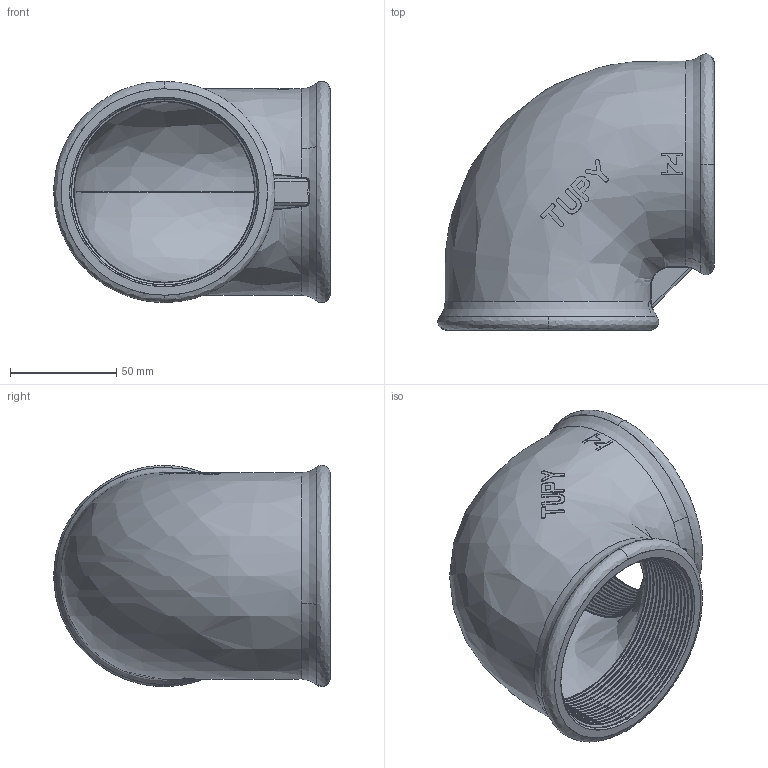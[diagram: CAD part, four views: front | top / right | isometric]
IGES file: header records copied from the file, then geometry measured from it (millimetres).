
Start section: SolidWorks IGES file using analytic representation for surfaces
Global section: file name: C:\Users\Joel Rosa\Desktop\Tubulação\12-07-OK\12-07-012.IGS; native system: SolidWorks 2011; preprocessor: SolidWorks 2011; author: Joel Rosa; date: 121204.004056; units: millimetre
Bounding box: 130 x 130 x 103.99 mm (x, y, z)
Surface area: 93881.5 mm2 (no closed solid volume)
Topology: 0 solids, 0 shells, 395 faces, 3238 edges, 3238 vertices
Faces by surface type: bspline 279, revolution 116
